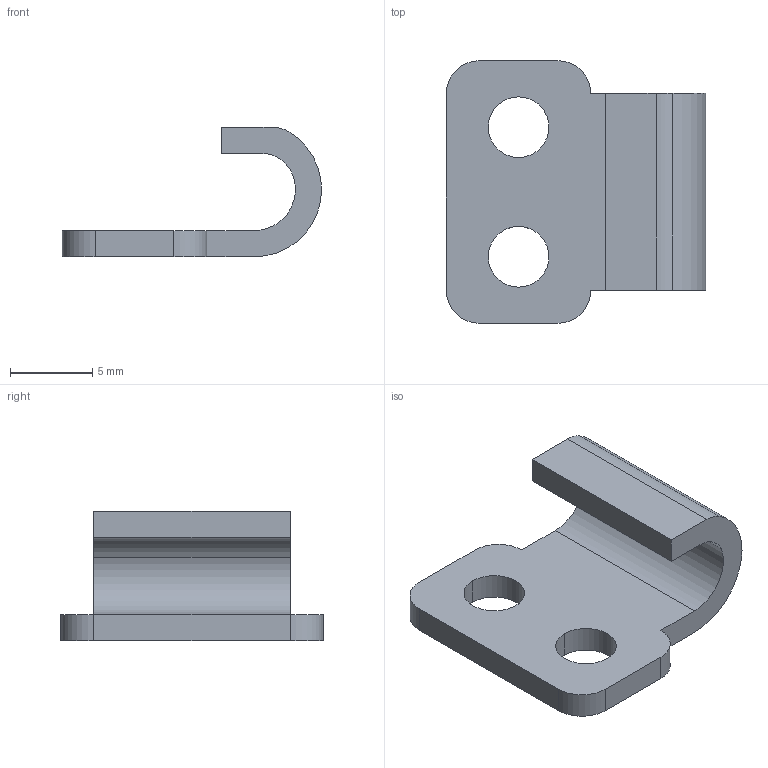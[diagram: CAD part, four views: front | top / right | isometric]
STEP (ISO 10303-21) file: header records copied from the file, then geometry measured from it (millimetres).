
FILE_DESCRIPTION((''),'2;1');
FILE_NAME('6200.__.stp','2015-11-09T16:04:42',(''),(''),'Mechanical Desktop 2006','Mechanical Desktop 2006',', , ');
FILE_SCHEMA(('CONFIG_CONTROL_DESIGN'));
Length unit declared in the file: millimetre
Products named in the file (2): 6200.__; TEIL2
Assembly tree (1 placements, depth 2):
  6200.__
    TEIL2
Bounding box: 15.8 x 16 x 7.9 mm (x, y, z)
Volume: 478.7 mm3; surface area: 756 mm2
Topology: 1 solids, 1 shells, 22 faces, 60 edges, 40 vertices
Faces by surface type: cylinder 12, plane 10
Entity records: 825 total; most frequent: DIRECTION 132, CARTESIAN_POINT 124, ORIENTED_EDGE 120, EDGE_CURVE 60, AXIS2_PLACEMENT_3D 48, VERTEX_POINT 40, VECTOR 36, LINE 36
